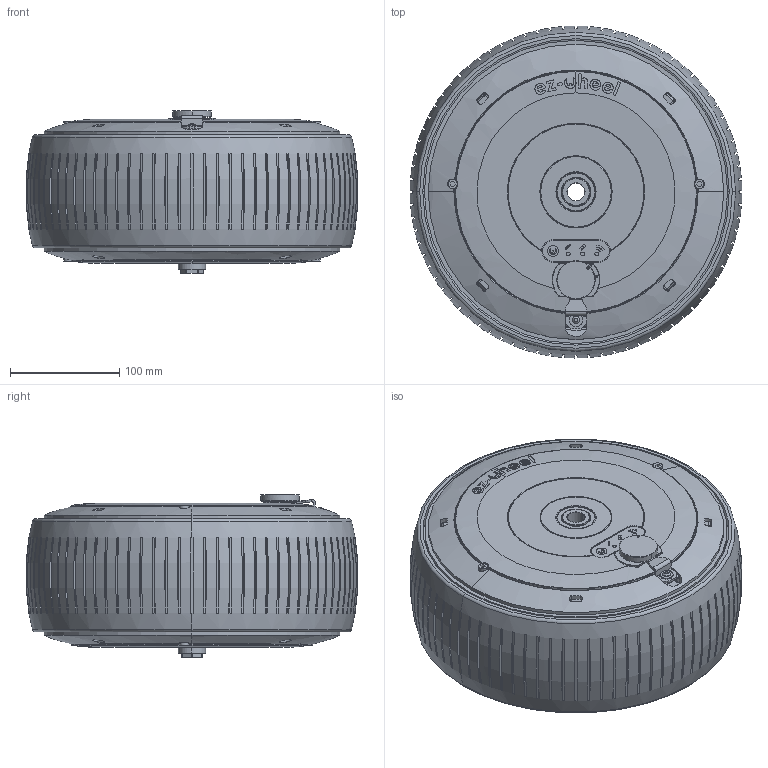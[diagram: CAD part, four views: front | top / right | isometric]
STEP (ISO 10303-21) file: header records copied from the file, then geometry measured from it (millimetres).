
FILE_DESCRIPTION (( 'STEP AP203' ), '1' );
FILE_NAME ('ezW300FW (STEP 3D).STEP', '2016-10-24T08:52:41', ( '' ), ( '' ), 'SwSTEP 2.0', 'SolidWorks 2014', '' );
FILE_SCHEMA (( 'CONFIG_CONTROL_DESIGN' ));
Products named in the file (1): ezW300FW (STEP 3D)
Bounding box: 303.35 x 303.35 x 148.8 mm (x, y, z)
Surface area: 498214.1 mm2 (no closed solid volume)
Topology: 0 solids, 35 shells, 793 faces, 2887 edges, 2181 vertices
Faces by surface type: plane 403, cylinder 155, bspline 115, torus 82, cone 35, sphere 3
Entity records: 40132 total; most frequent: CARTESIAN_POINT 17103, ORIENTED_EDGE 4461, DIRECTION 4335, EDGE_CURVE 2878, VERTEX_POINT 2177, AXIS2_PLACEMENT_3D 1689, EDGE_LOOP 1029, CIRCLE 1010
